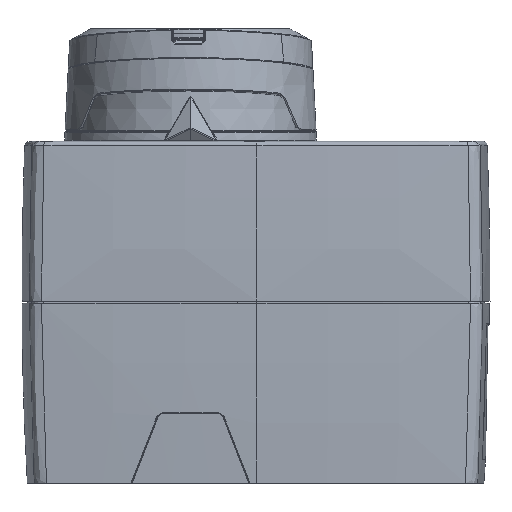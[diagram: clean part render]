
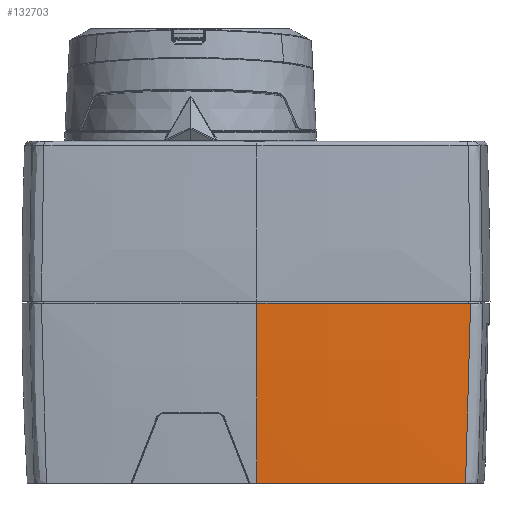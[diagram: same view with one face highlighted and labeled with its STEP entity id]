
A CAD part, left-side view. The second image highlights one B-rep face of the part: STEP entity #132703.
In plain terms, the highlighted toroidal (fillet/blend) face has major radius 76.5 mm and minor radius 636.5 mm.
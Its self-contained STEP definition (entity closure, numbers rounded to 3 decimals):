
#11814 = EDGE_CURVE ( 'NONE', #273496, #101322, #224099, .T. ) ;
#11860 = DIRECTION ( 'NONE',  ( 1., 0., 0. ) ) ;
#13135 = AXIS2_PLACEMENT_3D ( 'NONE', #211349, #255257, #142639 ) ;
#15549 = CIRCLE ( 'NONE', #230399, 636.5 ) ;
#21416 = CARTESIAN_POINT ( 'NONE',  ( 38.211, 43.437, -37.7 ) ) ;
#48032 = VERTEX_POINT ( 'NONE', #249318 ) ;
#48255 = CARTESIAN_POINT ( 'NONE',  ( 39.243, 44.466, -12.907 ) ) ;
#66325 = ORIENTED_EDGE ( 'NONE', *, *, #70620, .T. ) ;
#70620 = EDGE_CURVE ( 'NONE', #48032, #270229, #251150, .T. ) ;
#75369 = FACE_OUTER_BOUND ( 'NONE', #195692, .T. ) ;
#82488 = CARTESIAN_POINT ( 'NONE',  ( -595.5, 0.25, 0. ) ) ;
#83922 = AXIS2_PLACEMENT_3D ( 'NONE', #198779, #239836, #286701 ) ;
#94903 = CARTESIAN_POINT ( 'NONE',  ( 38.895, 44.119, -25.331 ) ) ;
#101322 = VERTEX_POINT ( 'NONE', #251352 ) ;
#101636 = AXIS2_PLACEMENT_3D ( 'NONE', #210738, #168349, #11860 ) ;
#120179 = ORIENTED_EDGE ( 'NONE', *, *, #215795, .T. ) ;
#124627 = CARTESIAN_POINT ( 'NONE',  ( 41., 0.25, -0.45 ) ) ;
#132703 = ADVANCED_FACE ( 'NONE', ( #75369 ), #246779, .T. ) ;
#133074 = CARTESIAN_POINT ( 'NONE',  ( 38.211, 43.437, -37.7 ) ) ;
#134527 = ORIENTED_EDGE ( 'NONE', *, *, #161734, .F. ) ;
#142639 = DIRECTION ( 'NONE',  ( 1., 0., 0. ) ) ;
#146433 = B_SPLINE_CURVE_WITH_KNOTS ( 'NONE', 3,
 ( #133074, #94903, #48255, #248507 ),
 .UNSPECIFIED., .F., .F.,
 ( 4, 4 ),
 ( 0., 1. ),
 .UNSPECIFIED. ) ;
#155925 = ORIENTED_EDGE ( 'NONE', *, *, #11814, .F. ) ;
#161734 = EDGE_CURVE ( 'NONE', #48032, #273496, #15549, .T. ) ;
#168349 = DIRECTION ( 'NONE',  ( 0., 0., 1. ) ) ;
#171759 = DIRECTION ( 'NONE',  ( 0., -1., 0. ) ) ;
#195692 = EDGE_LOOP ( 'NONE', ( #134527, #66325, #120179, #155925 ) ) ;
#198779 = CARTESIAN_POINT ( 'NONE',  ( -519., 0.25, -0.45 ) ) ;
#210738 = CARTESIAN_POINT ( 'NONE',  ( -519., 0.25, -37.7 ) ) ;
#211349 = CARTESIAN_POINT ( 'NONE',  ( -519., 0.25, 0. ) ) ;
#215795 = EDGE_CURVE ( 'NONE', #270229, #101322, #146433, .T. ) ;
#224099 = CIRCLE ( 'NONE', #83922, 560. ) ;
#230399 = AXIS2_PLACEMENT_3D ( 'NONE', #82488, #171759, #260979 ) ;
#239836 = DIRECTION ( 'NONE',  ( 0., 0., 1. ) ) ;
#246779 = TOROIDAL_SURFACE ( 'NONE', #13135, -76.5, 636.5 ) ;
#248507 = CARTESIAN_POINT ( 'NONE',  ( 39.251, 44.474, -0.45 ) ) ;
#249318 = CARTESIAN_POINT ( 'NONE',  ( 39.883, 0.25, -37.7 ) ) ;
#251150 = CIRCLE ( 'NONE', #101636, 558.883 ) ;
#251352 = CARTESIAN_POINT ( 'NONE',  ( 39.251, 44.474, -0.45 ) ) ;
#255257 = DIRECTION ( 'NONE',  ( 0., 0., 1. ) ) ;
#260979 = DIRECTION ( 'NONE',  ( 0., 0., -1. ) ) ;
#270229 = VERTEX_POINT ( 'NONE', #21416 ) ;
#273496 = VERTEX_POINT ( 'NONE', #124627 ) ;
#286701 = DIRECTION ( 'NONE',  ( 1., 0., 0. ) ) ;
